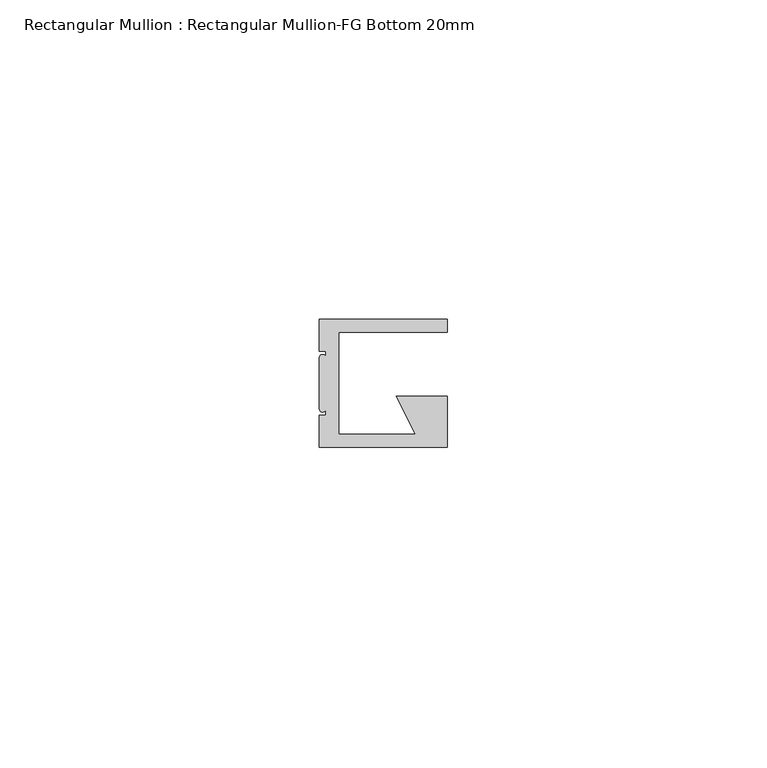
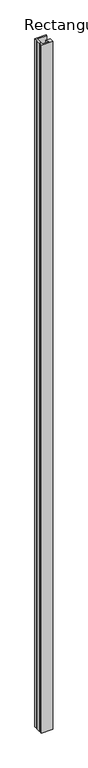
"""IFC4 building model written with IfcOpenShell, lengths in millimetres: member geometry, Rectangular Mullion : Rectangular Mullion-FG Bottom 20mm."""

from ifc_helpers import new_model, si_unit, frame, origin, place, context, project, spatial, circle_curve, source, transform, mapped, element, save
from ifc_brep_helpers import plane_surface, cylinder_surface, advanced_brep


def rectangular_mullion_rectangular_mullion_fg_bottom_20mm_be47ead7(model_context):
    return source(origin(), model_context, "Body", "AdvancedBrep", [
        advanced_brep(
        [(-20.0, -5.0, 0.0), (-19.0, -5.0, 0.0), (-19.0, -6.0, 0.0), (-20.0, -6.0, 0.0), (-20.0, -14.0, 0.0), (-19.0, -14.0, 0.0), (-19.0, -15.0, 0.0), (-20.0, -15.0, 0.0), (-20.0, -20.0, 0.0), (0.0, -20.0, 0.0), (0.0, -18.0, 0.0), (0.0, -12.0, 0.0), (-8.0, -12.0, 0.0), (-5.0, -18.0, 0.0), (-17.0, -18.0, 0.0), (-17.0, -2.0, 0.0), (0.0, -2.0, 0.0), (0.0, 0.0, 0.0), (-20.0, 0.0, 0.0), (-20.0, -5.0, -1290.0), (-20.0, 0.0, -1290.0), (0.0, 0.0, -1290.0), (0.0, -2.0, -1290.0), (-17.0, -2.0, -1290.0), (-17.0, -18.0, -1290.0), (-5.0, -18.0, -1290.0), (-8.0, -12.0, -1290.0), (0.0, -12.0, -1290.0), (0.0, -18.0, -1290.0), (0.0, -20.0, -1290.0), (-20.0, -20.0, -1290.0), (-20.0, -15.0, -1290.0), (-19.0, -15.0, -1290.0), (-19.0, -14.0, -1290.0), (-20.0, -14.0, -1290.0), (-20.0, -6.0, -1290.0), (-19.0, -6.0, -1290.0), (-19.0, -5.0, -1290.0)],
        [
            (0, 1),
            (1, 2),
            (2, 3, circle_curve(frame((-19.5, -6.0, 0.0), z_axis=(0.0, 0.0, 1.0), x_axis=(-1.0, 0.0, 0.0)), 0.5)),
            (3, 4),
            (4, 5, circle_curve(frame((-19.5, -14.0, 0.0), z_axis=(0.0, 0.0, 1.0), x_axis=(-1.0, 0.0, 0.0)), 0.5)),
            (5, 6),
            (6, 7),
            (7, 8),
            (8, 9),
            (9, 10),
            (10, 11),
            (11, 12),
            (12, 13),
            (13, 14),
            (14, 15),
            (15, 16),
            (16, 17),
            (17, 18),
            (18, 0),
            (19, 20),
            (20, 21),
            (21, 22),
            (22, 23),
            (23, 24),
            (24, 25),
            (25, 26),
            (26, 27),
            (27, 28),
            (28, 29),
            (29, 30),
            (30, 31),
            (31, 32),
            (32, 33),
            (33, 34, circle_curve(frame((-19.5, -14.0, -1290.0), z_axis=(0.0, 0.0, -1.0), x_axis=(-1.0, 0.0, 0.0)), 0.5)),
            (34, 35),
            (35, 36, circle_curve(frame((-19.5, -6.0, -1290.0), z_axis=(0.0, 0.0, -1.0), x_axis=(-1.0, 0.0, 0.0)), 0.5)),
            (36, 37),
            (37, 19),
            (0, 19),
            (37, 1),
            (36, 2),
            (35, 3),
            (34, 4),
            (33, 5),
            (32, 6),
            (31, 7),
            (30, 8),
            (29, 9),
            (28, 10),
            (27, 11),
            (26, 12),
            (25, 13),
            (24, 14),
            (23, 15),
            (22, 16),
            (21, 17),
            (20, 18),
        ],
        [
            plane_surface(frame((0.0, -28.2842712, 0.0), z_axis=(0.0, 0.0, 1.0), x_axis=(-1.0, 0.0, 0.0))),
            plane_surface(frame((0.0, -28.2842712, -1290.0), z_axis=(0.0, 0.0, -1.0), x_axis=(-1.0, 0.0, 0.0))),
            plane_surface(frame((-20.0, -5.0, 0.0), z_axis=(0.0, -1.0, 0.0), x_axis=(0.0, 0.0, -1.0))),
            plane_surface(frame((-19.0, -5.0, 0.0), z_axis=(-1.0, 0.0, 0.0), x_axis=(0.0, 0.0, -1.0))),
            cylinder_surface(frame((-19.5, -6.0, 0.0), z_axis=(0.0, 0.0, 1.0), x_axis=(-1.0, 0.0, 0.0)), 0.5),
            plane_surface(frame((-20.0, -6.0, 0.0), z_axis=(-1.0, 0.0, 0.0), x_axis=(0.0, 0.0, -1.0))),
            cylinder_surface(frame((-19.5, -14.0, 0.0), z_axis=(0.0, 0.0, 1.0), x_axis=(-1.0, 0.0, 0.0)), 0.5),
            plane_surface(frame((-19.0, -14.0, 0.0), z_axis=(-1.0, 0.0, 0.0), x_axis=(0.0, 0.0, -1.0))),
            plane_surface(frame((-19.0, -15.0, 0.0), z_axis=(0.0, 1.0, 0.0), x_axis=(0.0, 0.0, -1.0))),
            plane_surface(frame((-20.0, -15.0, 0.0), z_axis=(-1.0, 0.0, 0.0), x_axis=(0.0, 0.0, -1.0))),
            plane_surface(frame((-20.0, -20.0, 0.0), z_axis=(0.0, -1.0, 0.0), x_axis=(0.0, 0.0, -1.0))),
            plane_surface(frame((0.0, -20.0, 0.0), z_axis=(1.0, 0.0, 0.0), x_axis=(0.0, 0.0, -1.0))),
            plane_surface(frame((0.0, -18.0, 0.0), z_axis=(1.0, 0.0, 0.0), x_axis=(0.0, 0.0, -1.0))),
            plane_surface(frame((0.0, -12.0, 0.0), z_axis=(0.0, 1.0, 0.0), x_axis=(0.0, 0.0, -1.0))),
            plane_surface(frame((-8.0, -12.0, 0.0), z_axis=(-0.8944271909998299, -0.4472135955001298, 0.0), x_axis=(0.0, 0.0, -1.0))),
            plane_surface(frame((-5.0, -18.0, 0.0), z_axis=(0.0, 1.0, 0.0), x_axis=(0.0, 0.0, -1.0))),
            plane_surface(frame((-17.0, -18.0, 0.0), z_axis=(1.0, 0.0, 0.0), x_axis=(0.0, 0.0, -1.0))),
            plane_surface(frame((-17.0, -2.0, 0.0), z_axis=(0.0, -1.0, 0.0), x_axis=(0.0, 0.0, -1.0))),
            plane_surface(frame((0.0, -2.0, 0.0), z_axis=(1.0, 0.0, 0.0), x_axis=(0.0, 0.0, -1.0))),
            plane_surface(frame((0.0, 0.0, 0.0), z_axis=(0.0, 1.0, 0.0), x_axis=(0.0, 0.0, -1.0))),
            plane_surface(frame((-20.0, 0.0, 0.0), z_axis=(-1.0, 0.0, 0.0), x_axis=(0.0, 0.0, -1.0))),
        ],
        [
            (0, [[1, 2, 3, 4, 5, 6, 7, 8, 9, 10, 11, 12, 13, 14, 15, 16, 17, 18, 19]]),
            (1, [[20, 21, 22, 23, 24, 25, 26, 27, 28, 29, 30, 31, 32, 33, 34, 35, 36, 37, 38]]),
            (2, [[-1, 39, -38, 40]]),
            (3, [[-2, -40, -37, 41]]),
            (4, [[-3, -41, -36, 42]]),
            (5, [[-4, -42, -35, 43]]),
            (6, [[-5, -43, -34, 44]]),
            (7, [[-6, -44, -33, 45]]),
            (8, [[-7, -45, -32, 46]]),
            (9, [[-8, -46, -31, 47]]),
            (10, [[-9, -47, -30, 48]]),
            (11, [[-10, -48, -29, 49]]),
            (12, [[-11, -49, -28, 50]]),
            (13, [[-12, -50, -27, 51]]),
            (14, [[-13, -51, -26, 52]]),
            (15, [[-14, -52, -25, 53]]),
            (16, [[-15, -53, -24, 54]]),
            (17, [[-16, -54, -23, 55]]),
            (18, [[-17, -55, -22, 56]]),
            (19, [[-18, -56, -21, 57]]),
            (20, [[-19, -57, -20, -39]]),
        ],
    ),
    ])


if __name__ == "__main__":
    model = new_model("IFC4")
    model_context = context("Model", 3, world=origin())
    ifc_project = project(units=[si_unit("LENGTHUNIT", "METRE", prefix="MILLI")], contexts=[model_context])
    site = spatial("IfcSite", under=ifc_project)
    building = spatial("IfcBuilding", under=site)
    placement = place(None, origin())
    rectangular_mullion_rectangular_mullion_fg_bottom_20mm_shape = rectangular_mullion_rectangular_mullion_fg_bottom_20mm_be47ead7(model_context)
    element("IfcMember", 1, ObjectType="Rectangular Mullion : Rectangular Mullion-FG Bottom 20mm", at=placement, inside=building, context=model_context, shape_type="MappedRepresentation", body=[
        mapped(rectangular_mullion_rectangular_mullion_fg_bottom_20mm_shape, transform((0.0, 0.0, 0.0), x_axis=(1.0, 0.0, 0.0), y_axis=(0.0, 1.0, 0.0), z_axis=(0.0, 0.0, 1.0))),
    ])
    save(model, "model.ifc")
